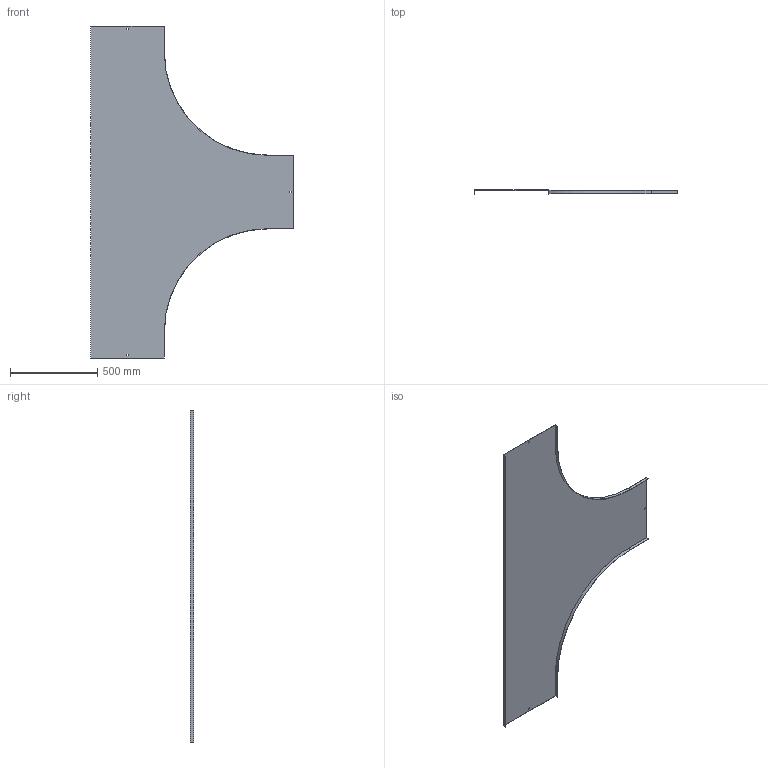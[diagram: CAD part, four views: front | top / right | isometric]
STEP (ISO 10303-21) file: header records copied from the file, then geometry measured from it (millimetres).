
FILE_DESCRIPTION (( 'STEP AP214' ), '1' );
FILE_NAME ('15N6P400.step', '2025-02-21T13:56:18', ( '' ), ( '' ), 'SwSTEP 2.0', 'SolidWorks 2023', '' );
FILE_SCHEMA (( 'AUTOMOTIVE_DESIGN' ));
Length unit declared in the file: millimetre
Products named in the file (1): 15N6P400
Bounding box: 1161.5 x 20 x 1900 mm (x, y, z)
Volume: 2017581 mm3; surface area: 2698840.7 mm2
Topology: 1 solids, 1 shells, 34 faces, 96 edges, 64 vertices
Faces by surface type: plane 30, cylinder 4
Entity records: 1123 total; most frequent: CARTESIAN_POINT 195, ORIENTED_EDGE 192, DIRECTION 174, EDGE_CURVE 96, VECTOR 88, LINE 88, VERTEX_POINT 64, AXIS2_PLACEMENT_3D 43
